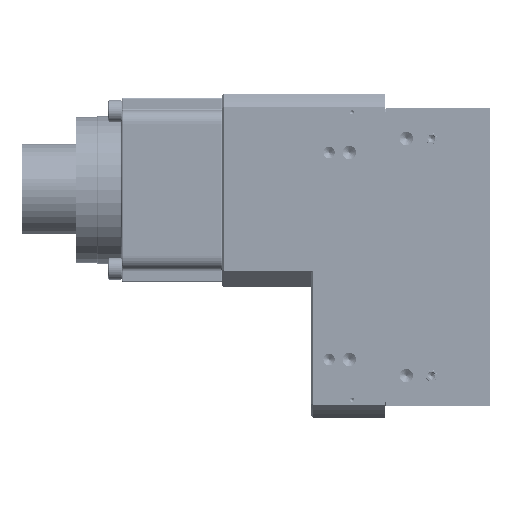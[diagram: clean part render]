
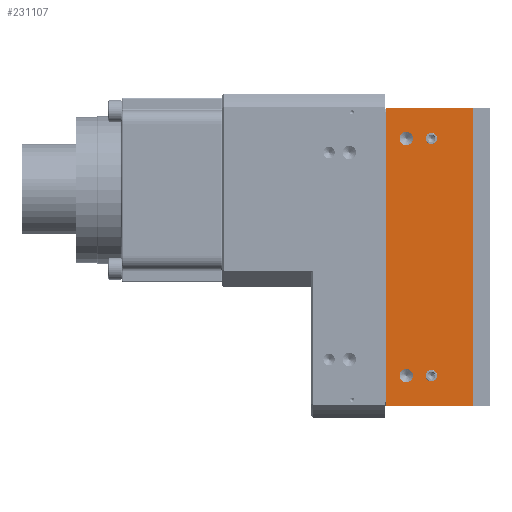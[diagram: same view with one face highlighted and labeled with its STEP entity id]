
A CAD part, left-side view. The second image highlights one B-rep face of the part: STEP entity #231107.
In plain terms, the highlighted planar face has unit normal (-1, 0, 0).
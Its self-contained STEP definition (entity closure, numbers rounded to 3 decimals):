
#1441 = CARTESIAN_POINT ( 'NONE',  ( -48., -0.5, 0. ) ) ;
#7470 = CARTESIAN_POINT ( 'NONE',  ( -48., -12.5, 159.5 ) ) ;
#7719 = AXIS2_PLACEMENT_3D ( 'NONE', #23028, #122365, #48707 ) ;
#10913 = VECTOR ( 'NONE', #235408, 1000. ) ;
#12353 = CIRCLE ( 'NONE', #78928, 4. ) ;
#15991 = ORIENTED_EDGE ( 'NONE', *, *, #122693, .F. ) ;
#16642 = ORIENTED_EDGE ( 'NONE', *, *, #62780, .F. ) ;
#21772 = DIRECTION ( 'NONE',  ( -1., 0., 0. ) ) ;
#23028 = CARTESIAN_POINT ( 'NONE',  ( -48., -0.5, 88.75 ) ) ;
#27894 = DIRECTION ( 'NONE',  ( -1., 0., 0. ) ) ;
#33094 = ORIENTED_EDGE ( 'NONE', *, *, #85049, .F. ) ;
#37331 = DIRECTION ( 'NONE',  ( 0., 0., 1. ) ) ;
#37769 = AXIS2_PLACEMENT_3D ( 'NONE', #80389, #154961, #234622 ) ;
#38681 = CARTESIAN_POINT ( 'NONE',  ( -48., -12.5, 14. ) ) ;
#39349 = LINE ( 'NONE', #1441, #10913 ) ;
#40492 = CIRCLE ( 'NONE', #111461, 3.4 ) ;
#43991 = VERTEX_POINT ( 'NONE', #129767 ) ;
#46174 = DIRECTION ( 'NONE',  ( 0., 0., 1. ) ) ;
#48707 = DIRECTION ( 'NONE',  ( 0., 0., -1. ) ) ;
#52208 = CIRCLE ( 'NONE', #202350, 4. ) ;
#54415 = DIRECTION ( 'NONE',  ( 0., 0., 1. ) ) ;
#55571 = AXIS2_PLACEMENT_3D ( 'NONE', #250480, #114598, #54415 ) ;
#58407 = ORIENTED_EDGE ( 'NONE', *, *, #245713, .F. ) ;
#62780 = EDGE_CURVE ( 'NONE', #179862, #215488, #189998, .T. ) ;
#64167 = VERTEX_POINT ( 'NONE', #120299 ) ;
#66786 = CIRCLE ( 'NONE', #108635, 3.4 ) ;
#67871 = ORIENTED_EDGE ( 'NONE', *, *, #225336, .F. ) ;
#68557 = DIRECTION ( 'NONE',  ( -1., 0., 0. ) ) ;
#70481 = DIRECTION ( 'NONE',  ( 0., 0., 1. ) ) ;
#71413 = LINE ( 'NONE', #120927, #251540 ) ;
#78928 = AXIS2_PLACEMENT_3D ( 'NONE', #92018, #68557, #171758 ) ;
#80389 = CARTESIAN_POINT ( 'NONE',  ( -48., -27.5, 18. ) ) ;
#81837 = FACE_OUTER_BOUND ( 'NONE', #201997, .T. ) ;
#81988 = DIRECTION ( 'NONE',  ( 0., 0., 1. ) ) ;
#84477 = DIRECTION ( 'NONE',  ( 0., -1., 0. ) ) ;
#85049 = EDGE_CURVE ( 'NONE', #167624, #233580, #108619, .T. ) ;
#89172 = ORIENTED_EDGE ( 'NONE', *, *, #173468, .F. ) ;
#92018 = CARTESIAN_POINT ( 'NONE',  ( -48., -12.5, 18. ) ) ;
#108291 = VERTEX_POINT ( 'NONE', #215467 ) ;
#108619 = CIRCLE ( 'NONE', #217135, 3.4 ) ;
#108635 = AXIS2_PLACEMENT_3D ( 'NONE', #206897, #27894, #46174 ) ;
#108927 = EDGE_LOOP ( 'NONE', ( #67871, #204602 ) ) ;
#109760 = CARTESIAN_POINT ( 'NONE',  ( -48., -27.5, 159.5 ) ) ;
#110001 = EDGE_LOOP ( 'NONE', ( #177015, #129512 ) ) ;
#110693 = VECTOR ( 'NONE', #172961, 1000. ) ;
#111211 = VERTEX_POINT ( 'NONE', #198430 ) ;
#111461 = AXIS2_PLACEMENT_3D ( 'NONE', #109760, #226056, #70481 ) ;
#114182 = CARTESIAN_POINT ( 'NONE',  ( -48., -0.5, 88.75 ) ) ;
#114598 = DIRECTION ( 'NONE',  ( -1., 0., 0. ) ) ;
#114871 = CARTESIAN_POINT ( 'NONE',  ( -48., -12.5, 159.5 ) ) ;
#119485 = CARTESIAN_POINT ( 'NONE',  ( -48., -27.5, 162.9 ) ) ;
#120299 = CARTESIAN_POINT ( 'NONE',  ( -48., -52.5, 177.5 ) ) ;
#120927 = CARTESIAN_POINT ( 'NONE',  ( -48., -52.5, 0. ) ) ;
#122365 = DIRECTION ( 'NONE',  ( 1., 0., 0. ) ) ;
#122693 = EDGE_CURVE ( 'NONE', #147863, #188609, #66786, .T. ) ;
#124937 = ORIENTED_EDGE ( 'NONE', *, *, #194300, .F. ) ;
#126163 = CARTESIAN_POINT ( 'NONE',  ( -48., -0.5, 177.5 ) ) ;
#127912 = EDGE_LOOP ( 'NONE', ( #89172, #15991 ) ) ;
#129512 = ORIENTED_EDGE ( 'NONE', *, *, #197752, .F. ) ;
#129767 = CARTESIAN_POINT ( 'NONE',  ( -48., -52.5, 0. ) ) ;
#131818 = VERTEX_POINT ( 'NONE', #245187 ) ;
#133168 = DIRECTION ( 'NONE',  ( -1., 0., 0. ) ) ;
#140719 = CARTESIAN_POINT ( 'NONE',  ( -48., -27.5, 159.5 ) ) ;
#140838 = DIRECTION ( 'NONE',  ( -1., 0., 0. ) ) ;
#141959 = FACE_BOUND ( 'NONE', #155295, .T. ) ;
#144599 = DIRECTION ( 'NONE',  ( 0., 0., 1. ) ) ;
#147863 = VERTEX_POINT ( 'NONE', #159681 ) ;
#149339 = FACE_BOUND ( 'NONE', #110001, .T. ) ;
#154961 = DIRECTION ( 'NONE',  ( -1., 0., 0. ) ) ;
#155295 = EDGE_LOOP ( 'NONE', ( #124937, #33094 ) ) ;
#155502 = VECTOR ( 'NONE', #84477, 1000. ) ;
#156196 = CARTESIAN_POINT ( 'NONE',  ( -48., -0.5, 0. ) ) ;
#159681 = CARTESIAN_POINT ( 'NONE',  ( -48., -27.5, 14.6 ) ) ;
#162257 = ORIENTED_EDGE ( 'NONE', *, *, #177079, .T. ) ;
#163105 = CARTESIAN_POINT ( 'NONE',  ( -48., -27.5, 21.4 ) ) ;
#166919 = CARTESIAN_POINT ( 'NONE',  ( -48., -27.5, 156.1 ) ) ;
#167624 = VERTEX_POINT ( 'NONE', #166919 ) ;
#171758 = DIRECTION ( 'NONE',  ( 0., 0., 1. ) ) ;
#172961 = DIRECTION ( 'NONE',  ( 0., 0., 1. ) ) ;
#173468 = EDGE_CURVE ( 'NONE', #188609, #147863, #187982, .T. ) ;
#177015 = ORIENTED_EDGE ( 'NONE', *, *, #207463, .F. ) ;
#177079 = EDGE_CURVE ( 'NONE', #43991, #64167, #71413, .T. ) ;
#179862 = VERTEX_POINT ( 'NONE', #156196 ) ;
#182830 = AXIS2_PLACEMENT_3D ( 'NONE', #114871, #133168, #232431 ) ;
#183728 = FACE_BOUND ( 'NONE', #127912, .T. ) ;
#183795 = LINE ( 'NONE', #202096, #155502 ) ;
#187982 = CIRCLE ( 'NONE', #37769, 3.4 ) ;
#188609 = VERTEX_POINT ( 'NONE', #163105 ) ;
#189998 = LINE ( 'NONE', #114182, #110693 ) ;
#191857 = VERTEX_POINT ( 'NONE', #38681 ) ;
#192413 = EDGE_CURVE ( 'NONE', #179862, #43991, #39349, .T. ) ;
#192505 = ORIENTED_EDGE ( 'NONE', *, *, #192413, .T. ) ;
#194300 = EDGE_CURVE ( 'NONE', #233580, #167624, #40492, .T. ) ;
#195784 = EDGE_CURVE ( 'NONE', #111211, #131818, #211959, .T. ) ;
#197752 = EDGE_CURVE ( 'NONE', #191857, #108291, #12353, .T. ) ;
#198430 = CARTESIAN_POINT ( 'NONE',  ( -48., -12.5, 155.5 ) ) ;
#200724 = FACE_BOUND ( 'NONE', #108927, .T. ) ;
#201997 = EDGE_LOOP ( 'NONE', ( #192505, #162257, #58407, #16642 ) ) ;
#202096 = CARTESIAN_POINT ( 'NONE',  ( -48., -0.5, 177.5 ) ) ;
#202350 = AXIS2_PLACEMENT_3D ( 'NONE', #7470, #140838, #81988 ) ;
#204602 = ORIENTED_EDGE ( 'NONE', *, *, #195784, .F. ) ;
#206897 = CARTESIAN_POINT ( 'NONE',  ( -48., -27.5, 18. ) ) ;
#207463 = EDGE_CURVE ( 'NONE', #108291, #191857, #230921, .T. ) ;
#211959 = CIRCLE ( 'NONE', #182830, 4. ) ;
#215467 = CARTESIAN_POINT ( 'NONE',  ( -48., -12.5, 22. ) ) ;
#215488 = VERTEX_POINT ( 'NONE', #126163 ) ;
#217135 = AXIS2_PLACEMENT_3D ( 'NONE', #140719, #21772, #144599 ) ;
#225336 = EDGE_CURVE ( 'NONE', #131818, #111211, #52208, .T. ) ;
#226056 = DIRECTION ( 'NONE',  ( -1., 0., 0. ) ) ;
#227719 = PLANE ( 'NONE',  #7719 ) ;
#230921 = CIRCLE ( 'NONE', #55571, 4. ) ;
#231107 = ADVANCED_FACE ( 'NONE', ( #200724, #149339, #183728, #141959, #81837 ), #227719, .F. ) ;
#232431 = DIRECTION ( 'NONE',  ( 0., 0., 1. ) ) ;
#233580 = VERTEX_POINT ( 'NONE', #119485 ) ;
#234622 = DIRECTION ( 'NONE',  ( 0., 0., 1. ) ) ;
#235408 = DIRECTION ( 'NONE',  ( 0., -1., 0. ) ) ;
#245187 = CARTESIAN_POINT ( 'NONE',  ( -48., -12.5, 163.5 ) ) ;
#245713 = EDGE_CURVE ( 'NONE', #215488, #64167, #183795, .T. ) ;
#250480 = CARTESIAN_POINT ( 'NONE',  ( -48., -12.5, 18. ) ) ;
#251540 = VECTOR ( 'NONE', #37331, 1000. ) ;
